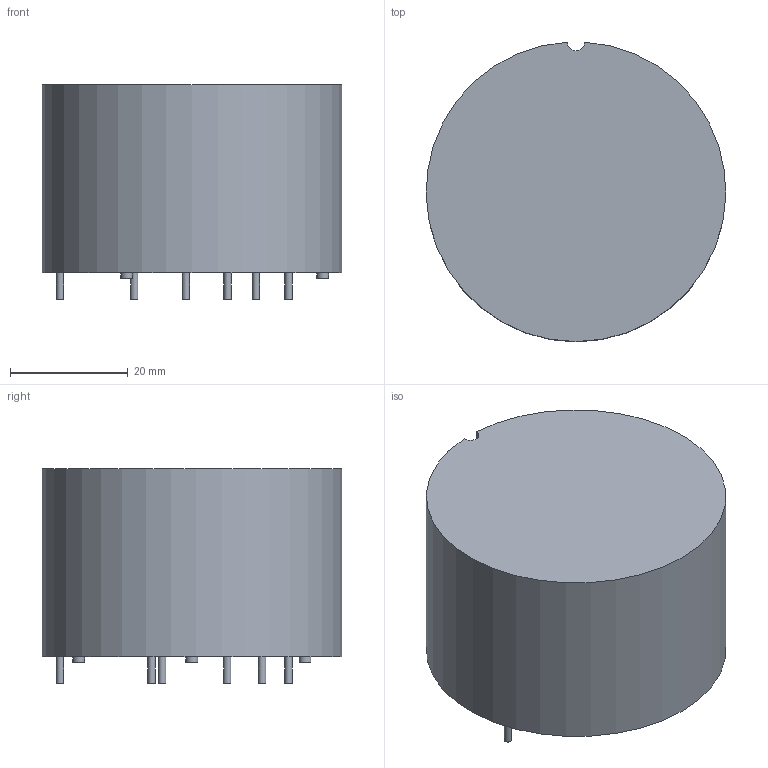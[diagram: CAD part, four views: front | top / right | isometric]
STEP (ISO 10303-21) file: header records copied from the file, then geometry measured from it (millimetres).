
FILE_DESCRIPTION(/* description */ (''),/* implementation_level */ '2;1');
FILE_NAME(/* name */ 'F:\2016年工作\2016年产品图纸\VAC\X2\4EA754C1\X0\3D模型\产品3D模型\6123-X310\6123-X310 3D model.stp',/* time_stamp */ '2016-06-21T09:18:45+08:00',/* author */ ('CN000560'),/* organization */ (''),/* preprocessor_version */ 'ST-DEVELOPER v16.1',/* originating_system */ 'Autodesk Inventor 2016',/* authorisation */ '');
FILE_SCHEMA (('AUTOMOTIVE_DESIGN { 1 0 10303 214 3 1 1 }'));
Length unit declared in the file: millimetre
Products named in the file (1): 6123-X310 3D model
Bounding box: 50.98 x 50.96 x 36.5 mm (x, y, z)
Volume: 65301.1 mm3; surface area: 9382.6 mm2
Topology: 1 solids, 1 shells, 22 faces, 33 edges, 22 vertices
Faces by surface type: cylinder 11, plane 11
Full cylindrical faces by diameter (mm): 1.25 x6, 2 x3
Entity records: 478 total; most frequent: DIRECTION 92, CARTESIAN_POINT 69, ORIENTED_EDGE 48, AXIS2_PLACEMENT_3D 45, EDGE_LOOP 40, EDGE_CURVE 24, FACE_OUTER_BOUND 22, CIRCLE 22
